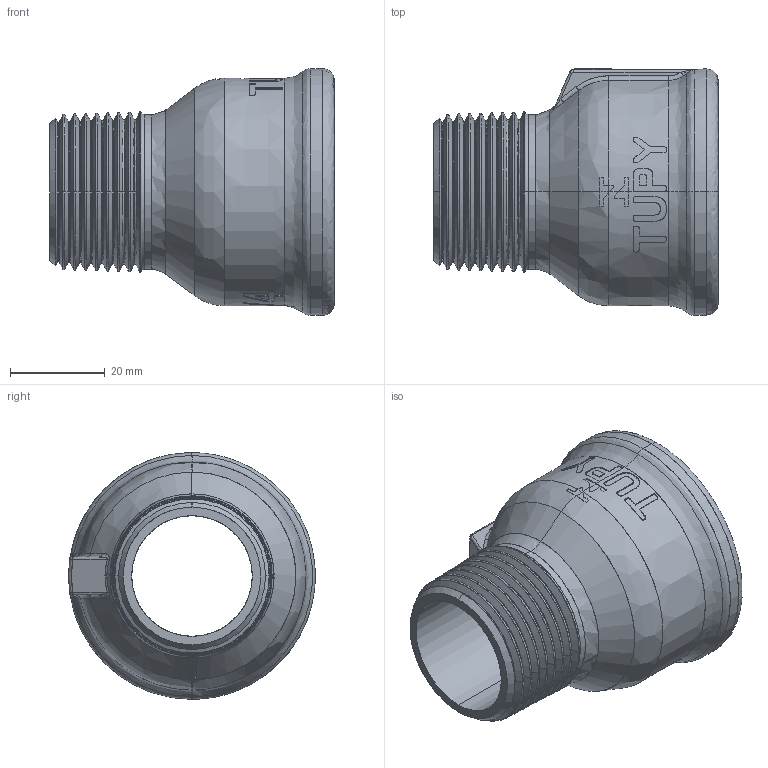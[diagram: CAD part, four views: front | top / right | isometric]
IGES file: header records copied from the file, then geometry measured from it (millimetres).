
Start section: SolidWorks IGES file using analytic representation for surfaces
Global section: file name: C:\Users\Joel Rosa\Desktop\Tubulação\12-35-OK\12-35-037.IGS; native system: SolidWorks 2011; preprocessor: SolidWorks 2011; author: Joel Rosa; date: 121209.031408; units: millimetre
Bounding box: 60 x 52 x 52 mm (x, y, z)
Surface area: 18580.2 mm2 (no closed solid volume)
Topology: 0 solids, 0 shells, 361 faces, 2746 edges, 2745 vertices
Faces by surface type: bspline 249, revolution 112
